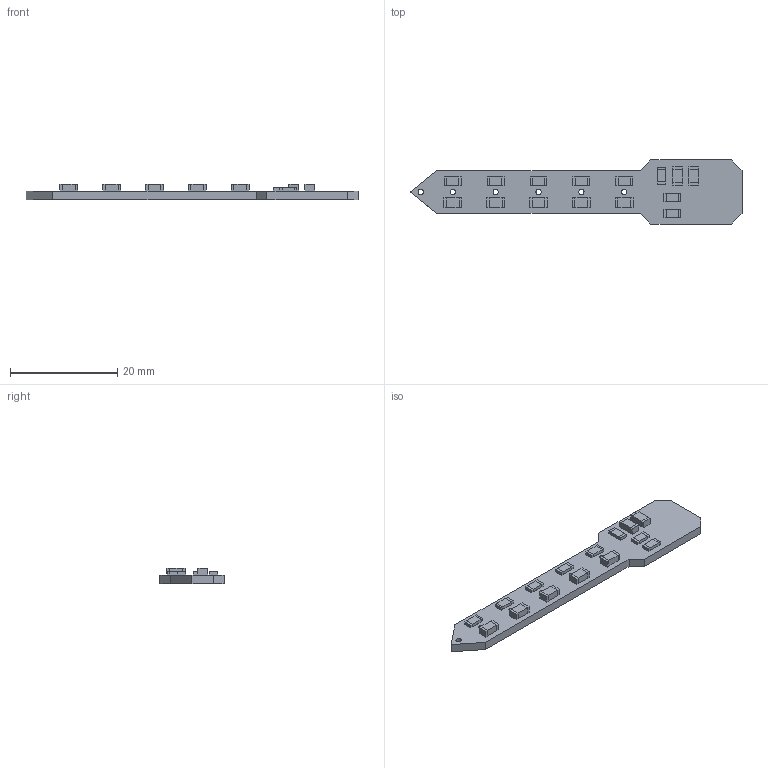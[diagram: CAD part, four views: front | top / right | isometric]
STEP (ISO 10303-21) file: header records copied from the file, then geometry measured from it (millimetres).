
FILE_DESCRIPTION(('Open CASCADE Model'),'2;1');
FILE_NAME('Open CASCADE Shape Model','2021-02-26T11:50:22',('Author'),( 'Open CASCADE'),'Open CASCADE STEP processor 6.8','Open CASCADE 6.8' ,'Unknown');
FILE_SCHEMA(('AUTOMOTIVE_DESIGN { 1 0 10303 214 1 1 1 1 }'));
Length unit declared in the file: millimetre
Products named in the file (1): PCB
Bounding box: 62 x 12 x 2.91 mm (x, y, z)
Volume: 934.8 mm3; surface area: 1777.6 mm2
Topology: 46 solids, 46 shells, 299 faces, 621 edges, 414 vertices
Faces by surface type: plane 283, cylinder 16
Full cylindrical faces by diameter (mm): 1 x6, 1.5 x10
Entity records: 8098 total; most frequent: CARTESIAN_POINT 1335, DIRECTION 1253, ORIENTED_EDGE 1242, EDGE_CURVE 621, LINE 589, VECTOR 589, VERTEX_POINT 414, AXIS2_PLACEMENT_3D 332
